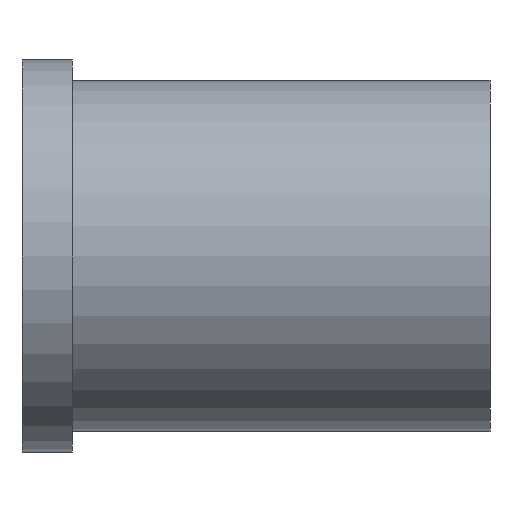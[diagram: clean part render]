
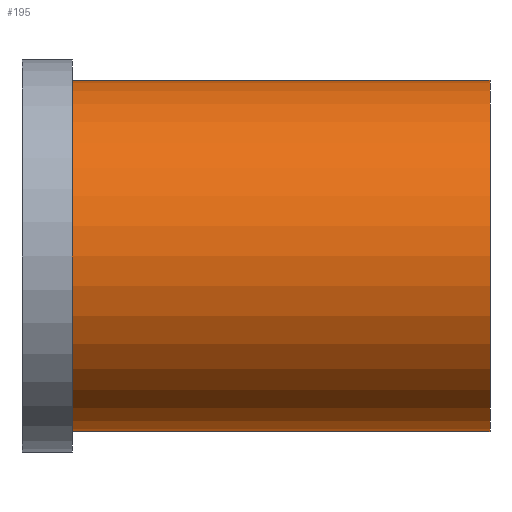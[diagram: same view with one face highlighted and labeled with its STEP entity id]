
A CAD part, left-side view. The second image highlights one B-rep face of the part: STEP entity #195.
In plain terms, the highlighted cylindrical face has radius 21 mm (diameter 42 mm), a full revolution.
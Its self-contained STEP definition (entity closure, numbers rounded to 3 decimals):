
#32=ORIENTED_EDGE('',*,*,#50,.T.);
#33=ORIENTED_EDGE('',*,*,#49,.F.);
#49=EDGE_CURVE('',#59,#59,#69,.T.);
#50=EDGE_CURVE('',#60,#60,#70,.T.);
#59=VERTEX_POINT('',#280);
#60=VERTEX_POINT('',#283);
#69=CIRCLE('',#213,21.);
#70=CIRCLE('',#215,21.);
#82=EDGE_LOOP('',(#32));
#83=EDGE_LOOP('',(#33));
#102=FACE_BOUND('',#82,.T.);
#103=FACE_BOUND('',#83,.T.);
#117=CYLINDRICAL_SURFACE('',#214,21.);
#195=ADVANCED_FACE('',(#102,#103),#117,.T.);
#213=AXIS2_PLACEMENT_3D('',#279,#241,#242);
#214=AXIS2_PLACEMENT_3D('',#281,#243,#244);
#215=AXIS2_PLACEMENT_3D('',#282,#245,#246);
#241=DIRECTION('',(0.,-1.,0.));
#242=DIRECTION('',(0.,0.,-1.));
#243=DIRECTION('',(0.,-1.,0.));
#244=DIRECTION('',(0.,0.,-1.));
#245=DIRECTION('',(0.,-1.,0.));
#246=DIRECTION('',(0.,0.,-1.));
#279=CARTESIAN_POINT('',(0.,0.,0.));
#280=CARTESIAN_POINT('',(0.,0.,-21.));
#281=CARTESIAN_POINT('',(0.,0.,0.));
#282=CARTESIAN_POINT('',(0.,50.,0.));
#283=CARTESIAN_POINT('',(0.,50.,-21.));
